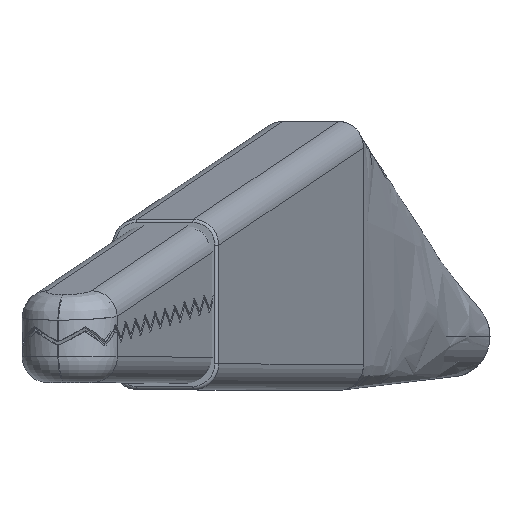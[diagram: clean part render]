
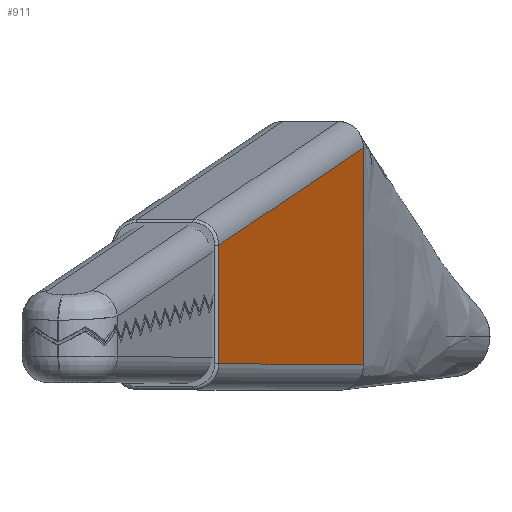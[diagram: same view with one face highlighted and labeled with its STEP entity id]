
A CAD part, top view. The second image highlights one B-rep face of the part: STEP entity #911.
In plain terms, the highlighted planar face has unit normal (0.966, 0, 0.259).
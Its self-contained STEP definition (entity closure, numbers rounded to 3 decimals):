
#30 = ORIENTED_EDGE ( 'NONE', *, *, #2947, .T. ) ;
#146 = DIRECTION ( 'NONE',  ( -0.259, 0., 0.966 ) ) ;
#227 = DIRECTION ( 'NONE',  ( -0.255, -0.174, 0.951 ) ) ;
#379 = ORIENTED_EDGE ( 'NONE', *, *, #3066, .T. ) ;
#534 = LINE ( 'NONE', #10583, #9432 ) ;
#560 = DIRECTION ( 'NONE',  ( 0., -1., 0. ) ) ;
#911 = ADVANCED_FACE ( 'NONE', ( #2900 ), #7509, .F. ) ;
#2479 = CARTESIAN_POINT ( 'NONE',  ( 7.024, -1.5, -13.85 ) ) ;
#2900 = FACE_OUTER_BOUND ( 'NONE', #5028, .T. ) ;
#2943 = VECTOR ( 'NONE', #560, 1000. ) ;
#2947 = EDGE_CURVE ( 'NONE', #5640, #11234, #10348, .T. ) ;
#3066 = EDGE_CURVE ( 'NONE', #11234, #9630, #534, .T. ) ;
#3385 = CARTESIAN_POINT ( 'NONE',  ( 2.543, 2.962, 2.873 ) ) ;
#3464 = ORIENTED_EDGE ( 'NONE', *, *, #8942, .T. ) ;
#4834 = VECTOR ( 'NONE', #5016, 1000. ) ;
#4942 = CARTESIAN_POINT ( 'NONE',  ( 2.943, 3.235, 1.379 ) ) ;
#5016 = DIRECTION ( 'NONE',  ( 0., -1., 0. ) ) ;
#5028 = EDGE_LOOP ( 'NONE', ( #9826, #3464, #30, #379 ) ) ;
#5075 = CARTESIAN_POINT ( 'NONE',  ( 2.543, 0., 2.873 ) ) ;
#5149 = CARTESIAN_POINT ( 'NONE',  ( 7.024, 6.015, -13.85 ) ) ;
#5640 = VERTEX_POINT ( 'NONE', #3385 ) ;
#6478 = CARTESIAN_POINT ( 'NONE',  ( 2.543, -0.7, 2.873 ) ) ;
#7509 = PLANE ( 'NONE',  #11499 ) ;
#7664 = DIRECTION ( 'NONE',  ( 0.259, 0., -0.966 ) ) ;
#8227 = CARTESIAN_POINT ( 'NONE',  ( 7.024, -0.7, -13.85 ) ) ;
#8824 = LINE ( 'NONE', #2479, #2943 ) ;
#8942 = EDGE_CURVE ( 'NONE', #11612, #5640, #10458, .T. ) ;
#9013 = VECTOR ( 'NONE', #227, 1000. ) ;
#9432 = VECTOR ( 'NONE', #7664, 1000. ) ;
#9630 = VERTEX_POINT ( 'NONE', #8227 ) ;
#9826 = ORIENTED_EDGE ( 'NONE', *, *, #10831, .F. ) ;
#10078 = CARTESIAN_POINT ( 'NONE',  ( 3.091, 0., 0.828 ) ) ;
#10348 = LINE ( 'NONE', #5075, #4834 ) ;
#10458 = LINE ( 'NONE', #4942, #9013 ) ;
#10583 = CARTESIAN_POINT ( 'NONE',  ( 3.091, -0.7, 0.828 ) ) ;
#10831 = EDGE_CURVE ( 'NONE', #11612, #9630, #8824, .T. ) ;
#10982 = DIRECTION ( 'NONE',  ( -0.966, 0., -0.259 ) ) ;
#11234 = VERTEX_POINT ( 'NONE', #6478 ) ;
#11499 = AXIS2_PLACEMENT_3D ( 'NONE', #10078, #10982, #146 ) ;
#11612 = VERTEX_POINT ( 'NONE', #5149 ) ;
